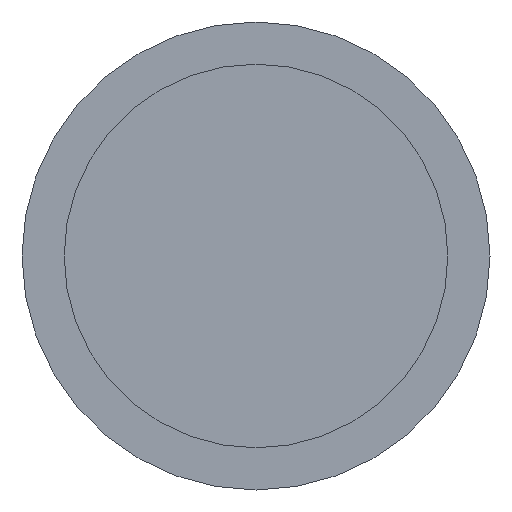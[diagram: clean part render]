
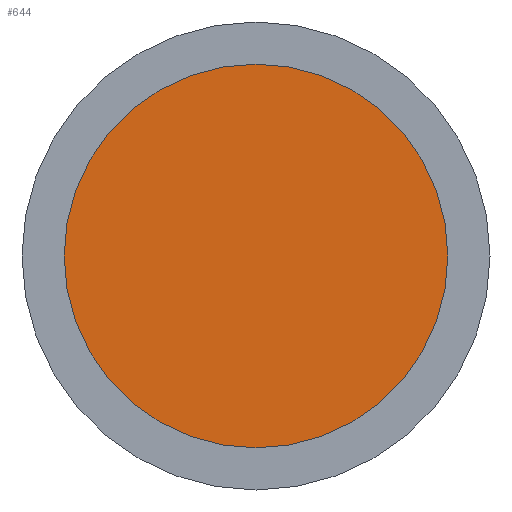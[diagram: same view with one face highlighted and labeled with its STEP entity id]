
A CAD part, front view. The second image highlights one B-rep face of the part: STEP entity #644.
In plain terms, the highlighted planar face has unit normal (0, -1, 0).
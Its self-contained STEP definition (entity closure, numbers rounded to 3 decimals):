
#1=CARTESIAN_POINT('',(0.,0.,0.));
#2=DIRECTION('',(0.,-1.,0.));
#3=DIRECTION('',(1.,0.,0.));
#4=AXIS2_PLACEMENT_3D('',#1,#2,#3);
#14=CARTESIAN_POINT('',(0.,0.,0.));
#15=DIRECTION('',(0.,1.,0.));
#16=DIRECTION('',(1.,0.,0.));
#17=AXIS2_PLACEMENT_3D('',#14,#15,#16);
#489=CARTESIAN_POINT('',(20.5,0.,0.));
#491=VERTEX_POINT('',#489);
#503=CARTESIAN_POINT('',(-20.5,0.,0.));
#505=VERTEX_POINT('',#503);
#633=CARTESIAN_POINT('',(0.,0.,0.));
#634=DIRECTION('',(0.,-1.,0.));
#635=DIRECTION('',(-1.,0.,0.));
#636=AXIS2_PLACEMENT_3D('',#633,#634,#635);
#637=PLANE('',#636);
#639=ORIENTED_EDGE('',*,*,#638,.F.);
#641=ORIENTED_EDGE('',*,*,#640,.T.);
#642=EDGE_LOOP('',(#639,#641));
#643=FACE_OUTER_BOUND('',#642,.F.);
#644=ADVANCED_FACE('',(#643),#637,.T.);
#5=CIRCLE('',#4,20.5);
#18=CIRCLE('',#17,20.5);
#638=EDGE_CURVE('',#491,#505,#5,.T.);
#640=EDGE_CURVE('',#491,#505,#18,.T.);
